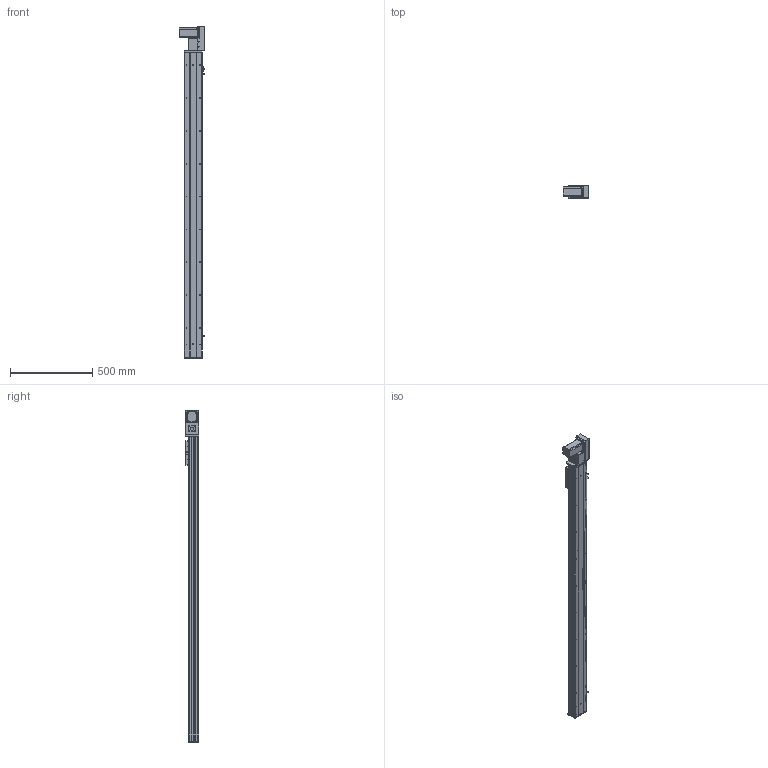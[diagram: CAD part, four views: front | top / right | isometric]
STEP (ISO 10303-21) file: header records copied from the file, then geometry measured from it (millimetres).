
FILE_DESCRIPTION (( 'STEP AP203' ), '1' );
FILE_NAME ('Y10CB-D90-S1600-BR-P400W.STEP', '2020-02-16T02:03:05', ( '微软用户' ), ( '微软中国' ), 'SwSTEP 2.0', 'SolidWorks 2017', '' );
FILE_SCHEMA (( 'CONFIG_CONTROL_DESIGN' ));
Length unit declared in the file: millimetre
Products named in the file (18): san松下电机400不带刹车----; 10CB-耜裔; 0B-源倛裔啣; Y135C-陔俋离換覜結え-; 0B-埴倛裔啣; Y100-135俋离換覜ん--; 0CB-雄赽釱---; Y10B--々湍喘謫眊--666; Y俋欶BR----; 0Cb-俋欶---; Y10CB-D90-S1600-BR-P400W; 10CB-詩湍-; Y10B-々湍喘謫眊楊擘啣--; Y10CB- 掛极耜裔啣-毀---; Y10B-耜蚾蟀諉啣----; Y10C---詩湍揤啣; 0B-萇儂楊擘啣; 10CB9-掛极
Assembly tree (21 placements, depth 2):
  Y10CB-D90-S1600-BR-P400W
    0CB-雄赽釱---
    0Cb-俋欶---
    Y10B-々湍喘謫眊楊擘啣--
    Y10B-耜蚾蟀諉啣----
    0B-萇儂楊擘啣
    san松下电机400不带刹车----
    0B-源倛裔啣
    0B-埴倛裔啣
    Y俋欶BR----
    10CB-詩湍-
    Y10CB- 掛极耜裔啣-毀---  x2
    Y10C---詩湍揤啣  x2
    10CB9-掛极
    10CB-耜裔
    Y135C-陔俋离換覜結え-
    Y100-135俋离換覜ん--  x3
    Y10B--々湍喘謫眊--666
Bounding box: 157.5 x 80.5 x 2022.5 mm (x, y, z)
Volume: 4183706.9 mm3; surface area: 1940901.5 mm2
Topology: 21 solids, 21 shells, 1026 faces, 2763 edges, 1802 vertices
Faces by surface type: cylinder 517, plane 485, cone 24
Entity records: 32404 total; most frequent: CARTESIAN_POINT 5913, DIRECTION 5198, ORIENTED_EDGE 4996, EDGE_CURVE 2498, AXIS2_PLACEMENT_3D 1857, VERTEX_POINT 1628, LINE 1484, VECTOR 1484
